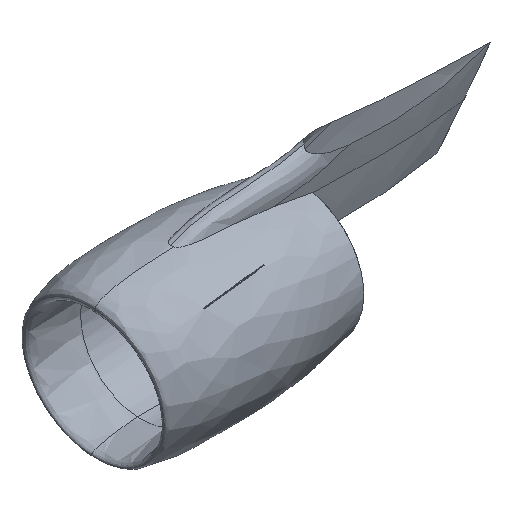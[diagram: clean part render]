
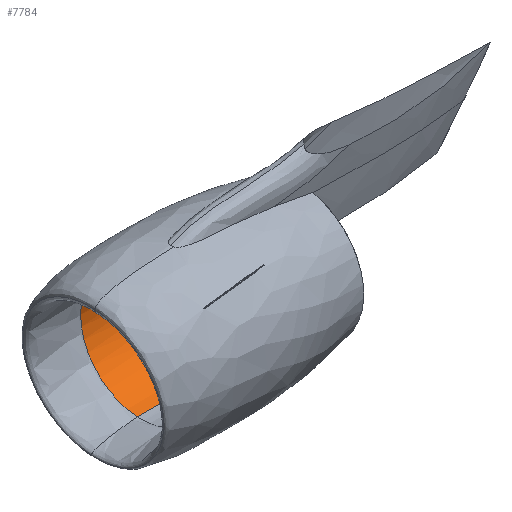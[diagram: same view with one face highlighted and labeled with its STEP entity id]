
A CAD part, isometric view. The second image highlights one B-rep face of the part: STEP entity #7784.
In plain terms, the highlighted face is a revolution surface.
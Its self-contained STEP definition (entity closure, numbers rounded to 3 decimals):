
#7583=CARTESIAN_POINT('Vertex',(27733.243,9635.9,4058.846)) ;
#7586=CARTESIAN_POINT('Axis2P3D Location',(27695.279,9787.769,2318.974)) ;
#7590=CARTESIAN_POINT('Vertex',(27657.315,9939.637,579.102)) ;
#7738=CARTESIAN_POINT('Control Point',(25761.716,9885.554,629.7)) ;
#7739=CARTESIAN_POINT('Control Point',(25869.106,9888.549,627.618)) ;
#7740=CARTESIAN_POINT('Control Point',(25881.993,9888.908,627.368)) ;
#7741=CARTESIAN_POINT('Control Point',(27457.704,9933.459,589.927)) ;
#7742=CARTESIAN_POINT('Control Point',(27657.315,9939.637,579.102)) ;
#7743=CARTESIAN_POINT('Axis1P Location',(25799.378,9734.893,2355.728)) ;
#7748=CARTESIAN_POINT('Control Point',(25761.716,9885.554,629.7)) ;
#7749=CARTESIAN_POINT('Control Point',(25869.106,9888.549,627.618)) ;
#7750=CARTESIAN_POINT('Control Point',(25881.993,9888.908,627.368)) ;
#7751=CARTESIAN_POINT('Control Point',(27457.704,9933.459,589.927)) ;
#7752=CARTESIAN_POINT('Control Point',(27657.315,9939.637,579.102)) ;
#7753=CARTESIAN_POINT('Vertex',(25761.716,9885.554,629.7)) ;
#7757=CARTESIAN_POINT('Control Point',(25837.04,9584.233,4081.755)) ;
#7758=CARTESIAN_POINT('Control Point',(25944.43,9587.228,4079.674)) ;
#7759=CARTESIAN_POINT('Control Point',(25957.317,9587.588,4079.424)) ;
#7760=CARTESIAN_POINT('Control Point',(27533.329,9630.935,4055.767)) ;
#7761=CARTESIAN_POINT('Control Point',(27733.243,9635.9,4058.846)) ;
#7762=CARTESIAN_POINT('Vertex',(25837.04,9584.233,4081.755)) ;
#7765=CARTESIAN_POINT('Axis2P3D Location',(25799.378,9734.893,2355.728)) ;
#7769=CARTESIAN_POINT('Vertex',(25771.575,11278.717,3142.572)) ;
#7772=CARTESIAN_POINT('Axis2P3D Location',(25799.378,9734.893,2355.728)) ;
#7587=DIRECTION('Axis2P3D Direction',(-0.999,-0.028,0.019)) ;
#7744=DIRECTION('Axis1P Direction',(-0.999,-0.028,0.019)) ;
#7766=DIRECTION('Axis2P3D Direction',(-0.999,-0.028,0.019)) ;
#7773=DIRECTION('Axis2P3D Direction',(-0.999,-0.028,0.019)) ;
#7588=AXIS2_PLACEMENT_3D('Circle Axis2P3D',#7586,#7587,$) ;
#7767=AXIS2_PLACEMENT_3D('Circle Axis2P3D',#7765,#7766,$) ;
#7774=AXIS2_PLACEMENT_3D('Circle Axis2P3D',#7772,#7773,$) ;
#7778=ORIENTED_EDGE('',*,*,#7755,.T.) ;
#7779=ORIENTED_EDGE('',*,*,#7592,.F.) ;
#7780=ORIENTED_EDGE('',*,*,#7764,.F.) ;
#7781=ORIENTED_EDGE('',*,*,#7771,.T.) ;
#7782=ORIENTED_EDGE('',*,*,#7776,.T.) ;
#7784=ADVANCED_FACE('NACuhbr_DLRna',(#7783),#7746,.T.) ;
#7745=AXIS1_PLACEMENT('Revolution Surface Axis1P',#7743,#7744) ;
#7737=B_SPLINE_CURVE_WITH_KNOTS('',4,(#7738,#7739,#7740,#7741,#7742),.UNSPECIFIED.,.F.,.U.,(5,5),(0.,1897.132),.UNSPECIFIED.) ;
#7747=B_SPLINE_CURVE_WITH_KNOTS('',4,(#7748,#7749,#7750,#7751,#7752),.UNSPECIFIED.,.F.,.U.,(5,5),(0.,1897.132),.UNSPECIFIED.) ;
#7756=B_SPLINE_CURVE_WITH_KNOTS('',4,(#7757,#7758,#7759,#7760,#7761),.UNSPECIFIED.,.F.,.U.,(5,5),(0.,1897.132),.UNSPECIFIED.) ;
#7589=CIRCLE('generated circle',#7588,1746.9) ;
#7768=CIRCLE('generated circle',#7767,1733.) ;
#7775=CIRCLE('generated circle',#7774,1733.) ;
#7592=EDGE_CURVE('',#7584,#7591,#7589,.T.) ;
#7755=EDGE_CURVE('',#7754,#7591,#7747,.T.) ;
#7764=EDGE_CURVE('',#7763,#7584,#7756,.T.) ;
#7771=EDGE_CURVE('',#7763,#7770,#7768,.T.) ;
#7776=EDGE_CURVE('',#7770,#7754,#7775,.T.) ;
#7777=EDGE_LOOP('',(#7778,#7779,#7780,#7781,#7782)) ;
#7783=FACE_OUTER_BOUND('',#7777,.T.) ;
#7746=SURFACE_OF_REVOLUTION('Surface of Revolution',#7737,#7745) ;
#7584=VERTEX_POINT('',#7583) ;
#7591=VERTEX_POINT('',#7590) ;
#7754=VERTEX_POINT('',#7753) ;
#7763=VERTEX_POINT('',#7762) ;
#7770=VERTEX_POINT('',#7769) ;
